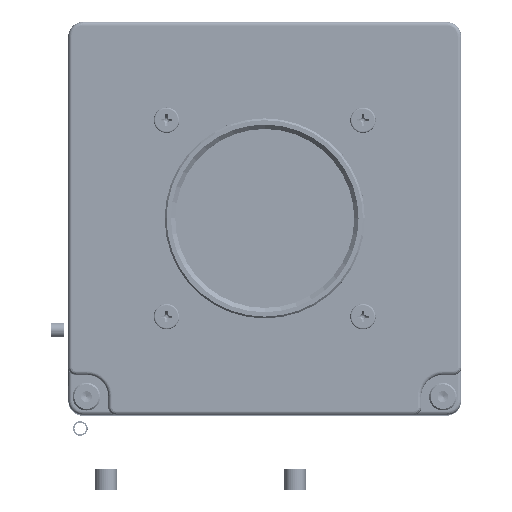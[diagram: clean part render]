
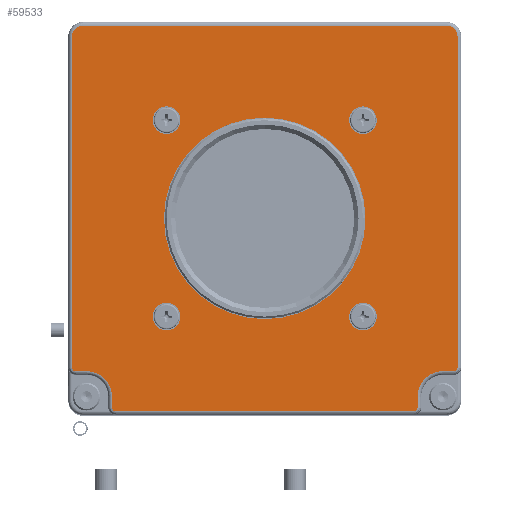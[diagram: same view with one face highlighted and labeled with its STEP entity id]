
A CAD part, top view. The second image highlights one B-rep face of the part: STEP entity #59533.
In plain terms, the highlighted planar face has unit normal (0, 0, 1).
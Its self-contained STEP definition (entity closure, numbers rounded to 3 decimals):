
#55727=DIRECTION('',(-1.,0.,0.));
#55728=VECTOR('',#55727,50.);
#55729=CARTESIAN_POINT('',(20.,21.5,5.5));
#55730=LINE('',#55729,#55728);
#55735=CARTESIAN_POINT('',(20.,20.,5.5));
#55736=DIRECTION('',(0.,0.,-1.));
#55737=DIRECTION('',(0.,1.,0.));
#55738=AXIS2_PLACEMENT_3D('',#55735,#55736,#55737);
#55740=CARTESIAN_POINT('',(21.,-25.5,5.5));
#55741=DIRECTION('',(0.,0.,-1.));
#55742=DIRECTION('',(1.,0.,0.));
#55743=AXIS2_PLACEMENT_3D('',#55740,#55741,#55742);
#55745=CARTESIAN_POINT('',(19.5,-29.5,5.5));
#55746=DIRECTION('',(0.,0.,1.));
#55747=DIRECTION('',(0.,1.,0.));
#55748=AXIS2_PLACEMENT_3D('',#55745,#55746,#55747);
#55750=CARTESIAN_POINT('',(15.5,-31.,
5.5));
#55751=DIRECTION('',(0.,0.,-1.));
#55752=DIRECTION('',(1.,0.,0.));
#55753=AXIS2_PLACEMENT_3D('',#55750,#55751,#55752);
#55755=CARTESIAN_POINT('',(-25.5,-31.,5.5));
#55756=DIRECTION('',(0.,0.,-1.));
#55757=DIRECTION('',(0.,-1.,0.));
#55758=AXIS2_PLACEMENT_3D('',#55755,#55756,#55757);
#55760=CARTESIAN_POINT('',(-29.5,-29.5,5.5));
#55761=DIRECTION('',(0.,0.,1.));
#55762=DIRECTION('',(1.,0.,0.));
#55763=AXIS2_PLACEMENT_3D('',#55760,#55761,#55762);
#55765=CARTESIAN_POINT('',(-31.,-25.5,
5.5));
#55766=DIRECTION('',(0.,0.,-1.));
#55767=DIRECTION('',(0.,-1.,0.));
#55768=AXIS2_PLACEMENT_3D('',#55765,#55766,#55767);
#55770=CARTESIAN_POINT('',(-30.,20.,5.5));
#55771=DIRECTION('',(0.,0.,-1.));
#55772=DIRECTION('',(-1.,0.,0.));
#55773=AXIS2_PLACEMENT_3D('',#55770,#55771,#55772);
#55775=CARTESIAN_POINT('',(-5.,-5.,5.5));
#55776=DIRECTION('',(0.,0.,1.));
#55777=DIRECTION('',(1.,0.,0.));
#55778=AXIS2_PLACEMENT_3D('',#55775,#55776,#55777);
#55780=CARTESIAN_POINT('',(-5.,-5.,5.5));
#55781=DIRECTION('',(0.,0.,1.));
#55782=DIRECTION('',(-1.,0.,0.));
#55783=AXIS2_PLACEMENT_3D('',#55780,#55781,#55782);
#55785=CARTESIAN_POINT('',(-18.5,8.5,5.5));
#55786=DIRECTION('',(0.,0.,1.));
#55787=DIRECTION('',(1.,0.,0.));
#55788=AXIS2_PLACEMENT_3D('',#55785,#55786,#55787);
#55790=CARTESIAN_POINT('',(-18.5,8.5,5.5));
#55791=DIRECTION('',(0.,0.,1.));
#55792=DIRECTION('',(-1.,0.,0.));
#55793=AXIS2_PLACEMENT_3D('',#55790,#55791,#55792);
#55795=CARTESIAN_POINT('',(8.5,8.5,5.5));
#55796=DIRECTION('',(0.,0.,1.));
#55797=DIRECTION('',(1.,0.,0.));
#55798=AXIS2_PLACEMENT_3D('',#55795,#55796,#55797);
#55800=CARTESIAN_POINT('',(8.5,8.5,5.5));
#55801=DIRECTION('',(0.,0.,1.));
#55802=DIRECTION('',(-1.,0.,0.));
#55803=AXIS2_PLACEMENT_3D('',#55800,#55801,#55802);
#55805=CARTESIAN_POINT('',(8.5,-18.5,5.5));
#55806=DIRECTION('',(0.,0.,1.));
#55807=DIRECTION('',(1.,0.,0.));
#55808=AXIS2_PLACEMENT_3D('',#55805,#55806,#55807);
#55810=CARTESIAN_POINT('',(8.5,-18.5,5.5));
#55811=DIRECTION('',(0.,0.,1.));
#55812=DIRECTION('',(-1.,0.,0.));
#55813=AXIS2_PLACEMENT_3D('',#55810,#55811,#55812);
#55815=CARTESIAN_POINT('',(-18.5,-18.5,5.5));
#55816=DIRECTION('',(0.,0.,1.));
#55817=DIRECTION('',(1.,0.,0.));
#55818=AXIS2_PLACEMENT_3D('',#55815,#55816,#55817);
#55820=CARTESIAN_POINT('',(-18.5,-18.5,5.5));
#55821=DIRECTION('',(0.,0.,1.));
#55822=DIRECTION('',(-1.,0.,0.));
#55823=AXIS2_PLACEMENT_3D('',#55820,#55821,#55822);
#55928=DIRECTION('',(1.,0.,0.));
#55929=VECTOR('',#55928,41.);
#55930=CARTESIAN_POINT('',(-25.5,-31.5,5.5));
#55931=LINE('',#55930,#55929);
#55951=DIRECTION('',(0.,1.,0.));
#55952=VECTOR('',#55951,1.5);
#55953=CARTESIAN_POINT('',(16.,-31.,5.5));
#55954=LINE('',#55953,#55952);
#55978=DIRECTION('',(1.,0.,0.));
#55979=VECTOR('',#55978,1.5);
#55980=CARTESIAN_POINT('',(19.5,-26.,5.5));
#55981=LINE('',#55980,#55979);
#56001=DIRECTION('',(0.,1.,0.));
#56002=VECTOR('',#56001,45.5);
#56003=CARTESIAN_POINT('',(21.5,-25.5,5.5));
#56004=LINE('',#56003,#56002);
#56142=DIRECTION('',(0.,-1.,0.));
#56143=VECTOR('',#56142,45.5);
#56144=CARTESIAN_POINT('',(-31.5,20.,5.5));
#56145=LINE('',#56144,#56143);
#56165=DIRECTION('',(1.,0.,0.));
#56166=VECTOR('',#56165,1.5);
#56167=CARTESIAN_POINT('',(-31.,-26.,5.5));
#56168=LINE('',#56167,#56166);
#56192=DIRECTION('',(0.,-1.,0.));
#56193=VECTOR('',#56192,1.5);
#56194=CARTESIAN_POINT('',(-26.,-29.5,5.5));
#56195=LINE('',#56194,#56193);
#58647=CARTESIAN_POINT('',(8.85,-5.,5.5));
#58648=CARTESIAN_POINT('',(-18.85,-5.,5.5));
#58649=VERTEX_POINT('',#58647);
#58650=VERTEX_POINT('',#58648);
#58651=CARTESIAN_POINT('',(20.,21.5,5.5));
#58652=CARTESIAN_POINT('',(-30.,21.5,5.5));
#58653=VERTEX_POINT('',#58651);
#58654=VERTEX_POINT('',#58652);
#58655=CARTESIAN_POINT('',(21.5,20.,5.5));
#58656=VERTEX_POINT('',#58655);
#58657=CARTESIAN_POINT('',(21.5,-25.5,5.5));
#58658=VERTEX_POINT('',#58657);
#58659=CARTESIAN_POINT('',(21.,-26.,5.5));
#58660=VERTEX_POINT('',#58659);
#58661=CARTESIAN_POINT('',(19.5,-26.,5.5));
#58662=VERTEX_POINT('',#58661);
#58663=CARTESIAN_POINT('',(16.,-29.5,5.5));
#58664=VERTEX_POINT('',#58663);
#58665=CARTESIAN_POINT('',(16.,-31.,5.5));
#58666=VERTEX_POINT('',#58665);
#58667=CARTESIAN_POINT('',(15.5,-31.5,
5.5));
#58668=VERTEX_POINT('',#58667);
#58669=CARTESIAN_POINT('',(-25.5,-31.5,5.5));
#58670=VERTEX_POINT('',#58669);
#58671=CARTESIAN_POINT('',(-26.,-31.,5.5));
#58672=VERTEX_POINT('',#58671);
#58673=CARTESIAN_POINT('',(-26.,-29.5,5.5));
#58674=VERTEX_POINT('',#58673);
#58675=CARTESIAN_POINT('',(-29.5,-26.,5.5));
#58676=VERTEX_POINT('',#58675);
#58677=CARTESIAN_POINT('',(-31.,-26.,5.5));
#58678=VERTEX_POINT('',#58677);
#58679=CARTESIAN_POINT('',(-31.5,-25.5,
5.5));
#58680=VERTEX_POINT('',#58679);
#58681=CARTESIAN_POINT('',(-31.5,20.,5.5));
#58682=VERTEX_POINT('',#58681);
#58683=CARTESIAN_POINT('',(-16.6,8.5,5.5));
#58684=CARTESIAN_POINT('',(-20.4,8.5,5.5));
#58685=VERTEX_POINT('',#58683);
#58686=VERTEX_POINT('',#58684);
#58687=CARTESIAN_POINT('',(10.4,8.5,5.5));
#58688=CARTESIAN_POINT('',(6.6,8.5,5.5));
#58689=VERTEX_POINT('',#58687);
#58690=VERTEX_POINT('',#58688);
#58691=CARTESIAN_POINT('',(10.4,-18.5,5.5));
#58692=CARTESIAN_POINT('',(6.6,-18.5,5.5));
#58693=VERTEX_POINT('',#58691);
#58694=VERTEX_POINT('',#58692);
#58695=CARTESIAN_POINT('',(-16.6,-18.5,5.5));
#58696=CARTESIAN_POINT('',(-20.4,-18.5,5.5));
#58697=VERTEX_POINT('',#58695);
#58698=VERTEX_POINT('',#58696);
#59465=CARTESIAN_POINT('',(0.,0.,5.5));
#59466=DIRECTION('',(0.,0.,1.));
#59467=DIRECTION('',(1.,0.,0.));
#59468=AXIS2_PLACEMENT_3D('',#59465,#59466,#59467);
#59469=PLANE('',#59468);
#59470=ORIENTED_EDGE('',*,*,#59448,.F.);
#59472=ORIENTED_EDGE('',*,*,#59471,.T.);
#59474=ORIENTED_EDGE('',*,*,#59473,.F.);
#59476=ORIENTED_EDGE('',*,*,#59475,.T.);
#59478=ORIENTED_EDGE('',*,*,#59477,.F.);
#59480=ORIENTED_EDGE('',*,*,#59479,.T.);
#59482=ORIENTED_EDGE('',*,*,#59481,.F.);
#59484=ORIENTED_EDGE('',*,*,#59483,.T.);
#59486=ORIENTED_EDGE('',*,*,#59485,.F.);
#59488=ORIENTED_EDGE('',*,*,#59487,.T.);
#59490=ORIENTED_EDGE('',*,*,#59489,.F.);
#59492=ORIENTED_EDGE('',*,*,#59491,.T.);
#59494=ORIENTED_EDGE('',*,*,#59493,.F.);
#59496=ORIENTED_EDGE('',*,*,#59495,.T.);
#59498=ORIENTED_EDGE('',*,*,#59497,.F.);
#59500=ORIENTED_EDGE('',*,*,#59499,.T.);
#59501=EDGE_LOOP('',(#59470,#59472,#59474,#59476,#59478,#59480,#59482,#59484,
#59486,#59488,#59490,#59492,#59494,#59496,#59498,#59500));
#59502=FACE_OUTER_BOUND('',#59501,.F.);
#59504=ORIENTED_EDGE('',*,*,#59503,.T.);
#59506=ORIENTED_EDGE('',*,*,#59505,.T.);
#59507=EDGE_LOOP('',(#59504,#59506));
#59508=FACE_BOUND('',#59507,.F.);
#59510=ORIENTED_EDGE('',*,*,#59509,.T.);
#59512=ORIENTED_EDGE('',*,*,#59511,.T.);
#59513=EDGE_LOOP('',(#59510,#59512));
#59514=FACE_BOUND('',#59513,.F.);
#59516=ORIENTED_EDGE('',*,*,#59515,.T.);
#59518=ORIENTED_EDGE('',*,*,#59517,.T.);
#59519=EDGE_LOOP('',(#59516,#59518));
#59520=FACE_BOUND('',#59519,.F.);
#59522=ORIENTED_EDGE('',*,*,#59521,.T.);
#59524=ORIENTED_EDGE('',*,*,#59523,.T.);
#59525=EDGE_LOOP('',(#59522,#59524));
#59526=FACE_BOUND('',#59525,.F.);
#59528=ORIENTED_EDGE('',*,*,#59527,.T.);
#59530=ORIENTED_EDGE('',*,*,#59529,.T.);
#59531=EDGE_LOOP('',(#59528,#59530));
#59532=FACE_BOUND('',#59531,.F.);
#55739=CIRCLE('',#55738,1.5);
#55744=CIRCLE('',#55743,0.5);
#55749=CIRCLE('',#55748,3.5);
#55754=CIRCLE('',#55753,0.5);
#55759=CIRCLE('',#55758,0.5);
#55764=CIRCLE('',#55763,3.5);
#55769=CIRCLE('',#55768,0.5);
#55774=CIRCLE('',#55773,1.5);
#55779=CIRCLE('',#55778,13.85);
#55784=CIRCLE('',#55783,13.85);
#55789=CIRCLE('',#55788,1.9);
#55794=CIRCLE('',#55793,1.9);
#55799=CIRCLE('',#55798,1.9);
#55804=CIRCLE('',#55803,1.9);
#55809=CIRCLE('',#55808,1.9);
#55814=CIRCLE('',#55813,1.9);
#55819=CIRCLE('',#55818,1.9);
#55824=CIRCLE('',#55823,1.9);
#59448=EDGE_CURVE('',#58653,#58654,#55730,.T.);
#59471=EDGE_CURVE('',#58653,#58656,#55739,.T.);
#59473=EDGE_CURVE('',#58658,#58656,#56004,.T.);
#59475=EDGE_CURVE('',#58658,#58660,#55744,.T.);
#59477=EDGE_CURVE('',#58662,#58660,#55981,.T.);
#59479=EDGE_CURVE('',#58662,#58664,#55749,.T.);
#59481=EDGE_CURVE('',#58666,#58664,#55954,.T.);
#59483=EDGE_CURVE('',#58666,#58668,#55754,.T.);
#59485=EDGE_CURVE('',#58670,#58668,#55931,.T.);
#59487=EDGE_CURVE('',#58670,#58672,#55759,.T.);
#59489=EDGE_CURVE('',#58674,#58672,#56195,.T.);
#59491=EDGE_CURVE('',#58674,#58676,#55764,.T.);
#59493=EDGE_CURVE('',#58678,#58676,#56168,.T.);
#59495=EDGE_CURVE('',#58678,#58680,#55769,.T.);
#59497=EDGE_CURVE('',#58682,#58680,#56145,.T.);
#59499=EDGE_CURVE('',#58682,#58654,#55774,.T.);
#59503=EDGE_CURVE('',#58649,#58650,#55779,.T.);
#59505=EDGE_CURVE('',#58650,#58649,#55784,.T.);
#59509=EDGE_CURVE('',#58685,#58686,#55789,.T.);
#59511=EDGE_CURVE('',#58686,#58685,#55794,.T.);
#59515=EDGE_CURVE('',#58689,#58690,#55799,.T.);
#59517=EDGE_CURVE('',#58690,#58689,#55804,.T.);
#59521=EDGE_CURVE('',#58693,#58694,#55809,.T.);
#59523=EDGE_CURVE('',#58694,#58693,#55814,.T.);
#59527=EDGE_CURVE('',#58697,#58698,#55819,.T.);
#59529=EDGE_CURVE('',#58698,#58697,#55824,.T.);
#59533=ADVANCED_FACE('',(#59502,#59508,#59514,#59520,#59526,#59532),#59469,.T.);
